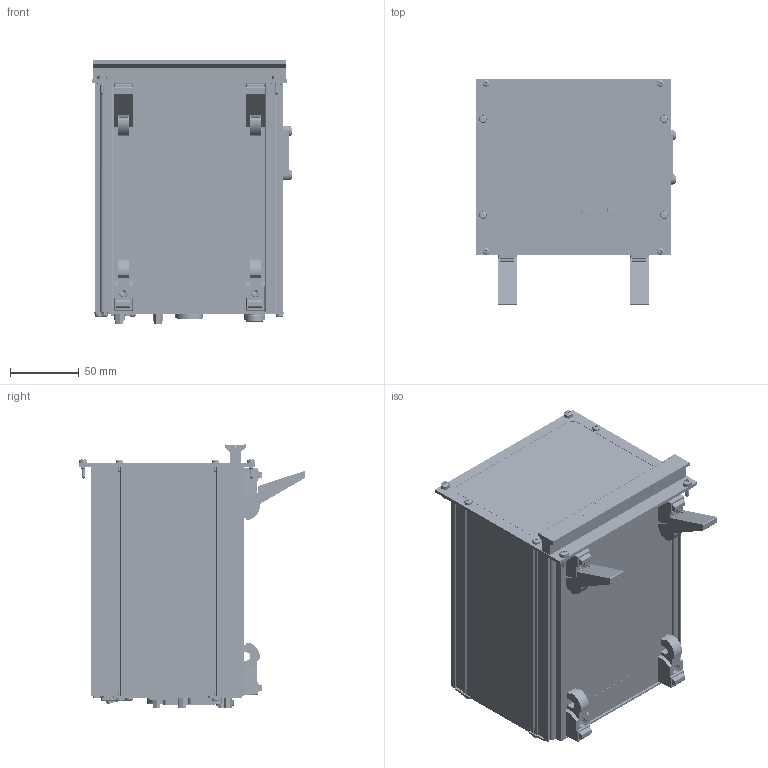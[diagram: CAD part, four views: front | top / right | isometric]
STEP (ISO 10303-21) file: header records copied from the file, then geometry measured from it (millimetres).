
FILE_DESCRIPTION (( 'STEP AP214' ), '1' );
FILE_NAME ('NORDSONEFD-7361217 CONTROLLER PICO TOUCH.STEP', '2019-01-16T16:26:51', ( '' ), ( '' ), 'SwSTEP 2.0', 'SolidWorks 2018', '' );
FILE_SCHEMA (( 'AUTOMOTIVE_DESIGN' ));
Products named in the file (1): NORDSONEFD-7361217 CONTROLLER PICO TOUCH
Bounding box: 146.05 x 164.29 x 192 mm (x, y, z)
Volume: 2418263.7 mm3; surface area: 308712.7 mm2
Topology: 3 solids, 43 shells, 11062 faces, 29370 edges, 19188 vertices
Faces by surface type: plane 5931, bspline 2423, cylinder 2060, cone 551, torus 90, sphere 7
Entity records: 458216 total; most frequent: CARTESIAN_POINT 199046, ORIENTED_EDGE 58628, DIRECTION 44911, EDGE_CURVE 29314, VERTEX_POINT 19188, LINE 18887, VECTOR 18887, AXIS2_PLACEMENT_3D 13012
